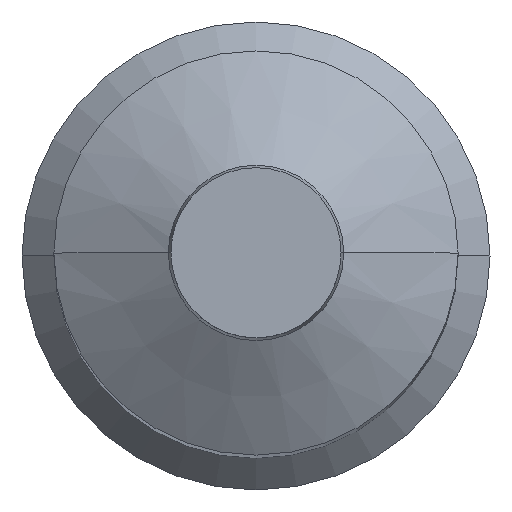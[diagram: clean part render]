
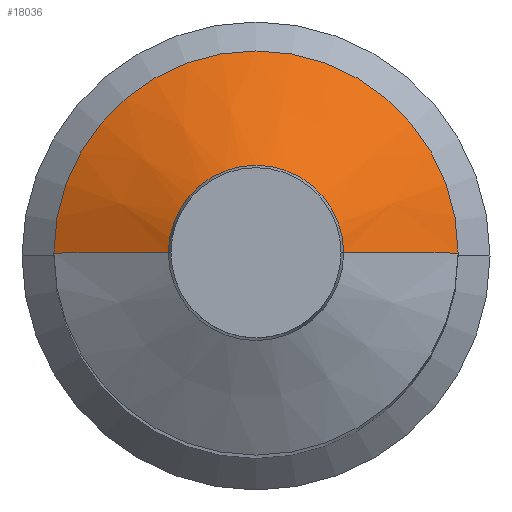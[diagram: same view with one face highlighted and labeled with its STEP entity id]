
A CAD part, top view. The second image highlights one B-rep face of the part: STEP entity #18036.
In plain terms, the highlighted conical face has half-angle 60 degrees and reference radius 38 mm.
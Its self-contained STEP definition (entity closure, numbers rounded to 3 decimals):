
#146 = CARTESIAN_POINT ( 'NONE',  ( 38., 0., 372.277 ) ) ;
#164 = CARTESIAN_POINT ( 'NONE',  ( 16.482, 0., 384.7 ) ) ;
#177 = CARTESIAN_POINT ( 'NONE',  ( -38., 0., 372.277 ) ) ;
#189 = CARTESIAN_POINT ( 'NONE',  ( -16.482, 0., 384.7 ) ) ;
#4799 = CARTESIAN_POINT ( 'NONE',  ( 0., 0., 384.7 ) ) ;
#4800 = DIRECTION ( 'NONE',  ( 0., 0., -1. ) ) ;
#4801 = DIRECTION ( 'NONE',  ( 1., 0., 0. ) ) ;
#4820 = CARTESIAN_POINT ( 'NONE',  ( 38., 0., 372.277 ) ) ;
#4821 = DIRECTION ( 'NONE',  ( 0.866, 0., -0.5 ) ) ;
#5685 = FACE_OUTER_BOUND ( 'NONE', #18654, .T. ) ;
#5711 = CONICAL_SURFACE ( 'NONE', #10521, 38., 1.047 ) ;
#8486 = CARTESIAN_POINT ( 'NONE',  ( 0., 0., 372.277 ) ) ;
#8487 = DIRECTION ( 'NONE',  ( 0., 0., -1. ) ) ;
#8488 = DIRECTION ( 'NONE',  ( 1., 0., 0. ) ) ;
#9133 = EDGE_CURVE ( 'NONE', #11060, #11048, #11129, .T. ) ;
#9137 = EDGE_CURVE ( 'NONE', #11048, #11017, #11137, .T. ) ;
#9152 = EDGE_CURVE ( 'NONE', #11060, #11035, #11152, .T. ) ;
#9159 = EDGE_CURVE ( 'NONE', #11035, #11017, #11160, .T. ) ;
#9651 = AXIS2_PLACEMENT_3D ( 'NONE', #16009, #16010, #16011 ) ;
#9658 = AXIS2_PLACEMENT_3D ( 'NONE', #4799, #4800, #4801 ) ;
#10521 = AXIS2_PLACEMENT_3D ( 'NONE', #8486, #8487, #8488 ) ;
#11017 = VERTEX_POINT ( 'NONE', #146 ) ;
#11035 = VERTEX_POINT ( 'NONE', #164 ) ;
#11048 = VERTEX_POINT ( 'NONE', #177 ) ;
#11060 = VERTEX_POINT ( 'NONE', #189 ) ;
#11129 = LINE ( 'NONE', #15963, #11131 ) ;
#11131 = VECTOR ( 'NONE', #15964, 1000. ) ;
#11137 = CIRCLE ( 'NONE', #9651, 38. ) ;
#11152 = CIRCLE ( 'NONE', #9658, 16.482 ) ;
#11160 = LINE ( 'NONE', #4820, #11161 ) ;
#11161 = VECTOR ( 'NONE', #4821, 1000. ) ;
#15963 = CARTESIAN_POINT ( 'NONE',  ( -38., 0., 372.277 ) ) ;
#15964 = DIRECTION ( 'NONE',  ( -0.866, 0., -0.5 ) ) ;
#16009 = CARTESIAN_POINT ( 'NONE',  ( 0., 0., 372.277 ) ) ;
#16010 = DIRECTION ( 'NONE',  ( 0., 0., -1. ) ) ;
#16011 = DIRECTION ( 'NONE',  ( 1., 0., 0. ) ) ;
#18036 = ADVANCED_FACE ( 'NONE', ( #5685 ), #5711, .T. ) ;
#18654 = EDGE_LOOP ( 'NONE', ( #18697, #18696, #18695, #18694 ) ) ;
#18694 = ORIENTED_EDGE ( 'NONE', *, *, #9137, .F. ) ;
#18695 = ORIENTED_EDGE ( 'NONE', *, *, #9159, .T. ) ;
#18696 = ORIENTED_EDGE ( 'NONE', *, *, #9152, .T. ) ;
#18697 = ORIENTED_EDGE ( 'NONE', *, *, #9133, .F. ) ;
